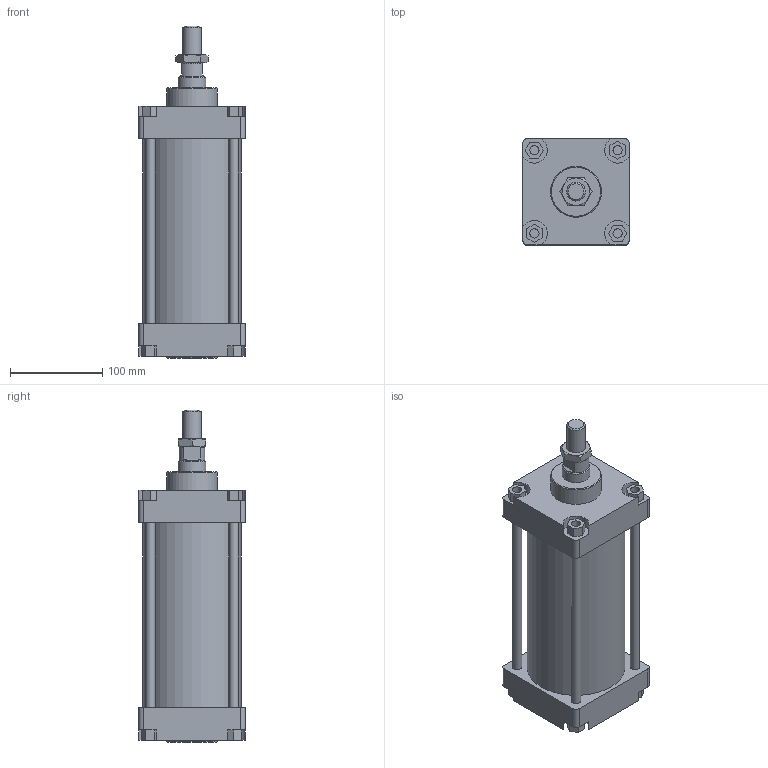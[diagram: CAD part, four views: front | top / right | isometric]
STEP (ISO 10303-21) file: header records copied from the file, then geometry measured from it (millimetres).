
FILE_DESCRIPTION(/* description */ (''),/* implementation_level */ '2;1');
FILE_NAME(/* name */ 'I:\Area Tecnica\Disegni\VARIE-3D\Componenti\CSP\Ø100\130#_100_####_###\130#_100_0125_01A.stp',/* time_stamp */ '2016-11-24T13:51:09+01:00',/* author */ ('Maniean1'),/* organization */ ('Pneumax S.p.A.'),/* preprocessor_version */ 'ST-DEVELOPER v15.2',/* originating_system */ 'Autodesk Inventor 2014',/* authorisation */ '');
FILE_SCHEMA (('AUTOMOTIVE_DESIGN { 1 0 10303 214 3 1 1 }'));
Length unit declared in the file: millimetre
Products named in the file (6): C_130#_100_0125; Testata anteriore_100; Testata posteriore_100; S_130#_100_0125_01A; 130#_100_18F; 130#_100_0125_01A
Bounding box: 115 x 115 x 359 mm (x, y, z)
Volume: 1854355 mm3; surface area: 332322 mm2
Topology: 9 solids, 9 shells, 162 faces, 380 edges, 249 vertices
Faces by surface type: plane 105, cylinder 42, cone 15
Full cylindrical faces by diameter (mm): 10 x12, 18.376 x1, 18.5 x1, 19 x2, 20 x1, 28 x1, 30 x3, 55 x2, 100 x2, 106 x1
Entity records: 4530 total; most frequent: CARTESIAN_POINT 785, DIRECTION 764, ORIENTED_EDGE 672, EDGE_CURVE 336, AXIS2_PLACEMENT_3D 271, VERTEX_POINT 244, EDGE_LOOP 236, LINE 222
